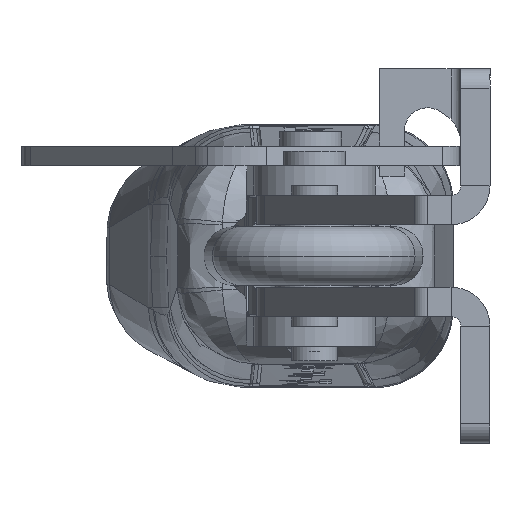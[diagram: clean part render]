
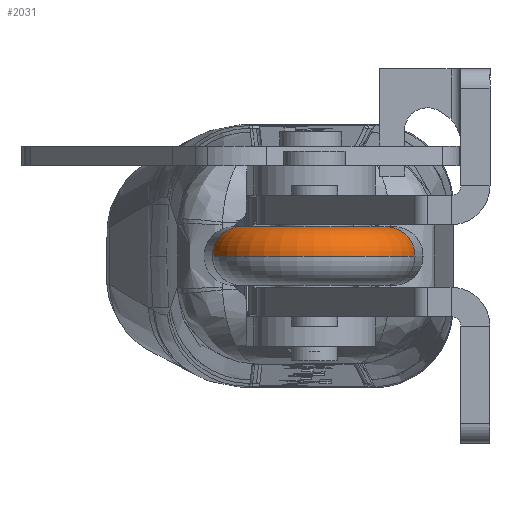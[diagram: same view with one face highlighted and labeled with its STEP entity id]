
A CAD part, left-side view. The second image highlights one B-rep face of the part: STEP entity #2031.
In plain terms, the highlighted toroidal (fillet/blend) face has major radius 7.5 mm and minor radius 3 mm.
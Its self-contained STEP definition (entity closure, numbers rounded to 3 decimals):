
#41 = DIRECTION ( 'NONE',  ( 1., 0., 0. ) ) ;
#145 = CARTESIAN_POINT ( 'NONE',  ( -10.234, 103.702, 0. ) ) ;
#711 = CARTESIAN_POINT ( 'NONE',  ( -13.167, 103.073, 0. ) ) ;
#1032 = AXIS2_PLACEMENT_3D ( 'NONE', #9517, #21666, #11324 ) ;
#2031 = ADVANCED_FACE ( 'NONE', ( #11059 ), #6906, .T. ) ;
#2438 = DIRECTION ( 'NONE',  ( -0.978, -0.21, 0. ) ) ;
#2767 = EDGE_CURVE ( 'NONE', #8373, #4810, #16161, .T. ) ;
#3699 = EDGE_CURVE ( 'NONE', #7764, #16798, #19654, .T. ) ;
#4258 = ORIENTED_EDGE ( 'NONE', *, *, #10150, .T. ) ;
#4810 = VERTEX_POINT ( 'NONE', #17260 ) ;
#5902 = AXIS2_PLACEMENT_3D ( 'NONE', #711, #12991, #2438 ) ;
#6636 = CARTESIAN_POINT ( 'NONE',  ( -20.5, 101.5, 0. ) ) ;
#6906 = TOROIDAL_SURFACE ( 'NONE', #9529, 7.5, 3. ) ;
#6985 = CARTESIAN_POINT ( 'NONE',  ( -16.1, 102.444, 0. ) ) ;
#7718 = CARTESIAN_POINT ( 'NONE',  ( -31., 101.5, 0. ) ) ;
#7764 = VERTEX_POINT ( 'NONE', #145 ) ;
#7978 = EDGE_CURVE ( 'NONE', #7764, #8373, #21050, .T. ) ;
#8373 = VERTEX_POINT ( 'NONE', #6985 ) ;
#8467 = DIRECTION ( 'NONE',  ( 0., 1., 0. ) ) ;
#8571 = CIRCLE ( 'NONE', #1032, 3. ) ;
#9517 = CARTESIAN_POINT ( 'NONE',  ( -28., 101.5, 0. ) ) ;
#9529 = AXIS2_PLACEMENT_3D ( 'NONE', #6636, #13637, #20519 ) ;
#9621 = CIRCLE ( 'NONE', #20736, 3. ) ;
#10150 = EDGE_CURVE ( 'NONE', #13386, #4810, #9621, .T. ) ;
#10565 = DIRECTION ( 'NONE',  ( 0., 0., 1. ) ) ;
#10595 = ORIENTED_EDGE ( 'NONE', *, *, #2767, .F. ) ;
#10939 = ORIENTED_EDGE ( 'NONE', *, *, #7978, .F. ) ;
#11059 = FACE_OUTER_BOUND ( 'NONE', #22363, .T. ) ;
#11307 = DIRECTION ( 'NONE',  ( 1., 0., 0. ) ) ;
#11324 = DIRECTION ( 'NONE',  ( 1., 0., 0. ) ) ;
#11629 = AXIS2_PLACEMENT_3D ( 'NONE', #20918, #10565, #41 ) ;
#12991 = DIRECTION ( 'NONE',  ( 0.21, -0.978, 0. ) ) ;
#13255 = ORIENTED_EDGE ( 'NONE', *, *, #17763, .T. ) ;
#13386 = VERTEX_POINT ( 'NONE', #16971 ) ;
#13637 = DIRECTION ( 'NONE',  ( 0., 0., 1. ) ) ;
#14076 = AXIS2_PLACEMENT_3D ( 'NONE', #16650, #16336, #11307 ) ;
#16161 = CIRCLE ( 'NONE', #14076, 4.5 ) ;
#16336 = DIRECTION ( 'NONE',  ( 0., 0., 1. ) ) ;
#16650 = CARTESIAN_POINT ( 'NONE',  ( -20.5, 101.5, 0. ) ) ;
#16798 = VERTEX_POINT ( 'NONE', #7718 ) ;
#16971 = CARTESIAN_POINT ( 'NONE',  ( -28., 101.5, 3. ) ) ;
#17260 = CARTESIAN_POINT ( 'NONE',  ( -25., 101.5, 0. ) ) ;
#17672 = ORIENTED_EDGE ( 'NONE', *, *, #3699, .T. ) ;
#17763 = EDGE_CURVE ( 'NONE', #16798, #13386, #8571, .T. ) ;
#18887 = CARTESIAN_POINT ( 'NONE',  ( -28., 101.5, 0. ) ) ;
#19654 = CIRCLE ( 'NONE', #11629, 10.5 ) ;
#20519 = DIRECTION ( 'NONE',  ( 1., 0., 0. ) ) ;
#20626 = DIRECTION ( 'NONE',  ( 1., 0., 0. ) ) ;
#20736 = AXIS2_PLACEMENT_3D ( 'NONE', #18887, #8467, #20626 ) ;
#20918 = CARTESIAN_POINT ( 'NONE',  ( -20.5, 101.5, 0. ) ) ;
#21050 = CIRCLE ( 'NONE', #5902, 3. ) ;
#21666 = DIRECTION ( 'NONE',  ( 0., 1., 0. ) ) ;
#22363 = EDGE_LOOP ( 'NONE', ( #10939, #17672, #13255, #4258, #10595 ) ) ;
